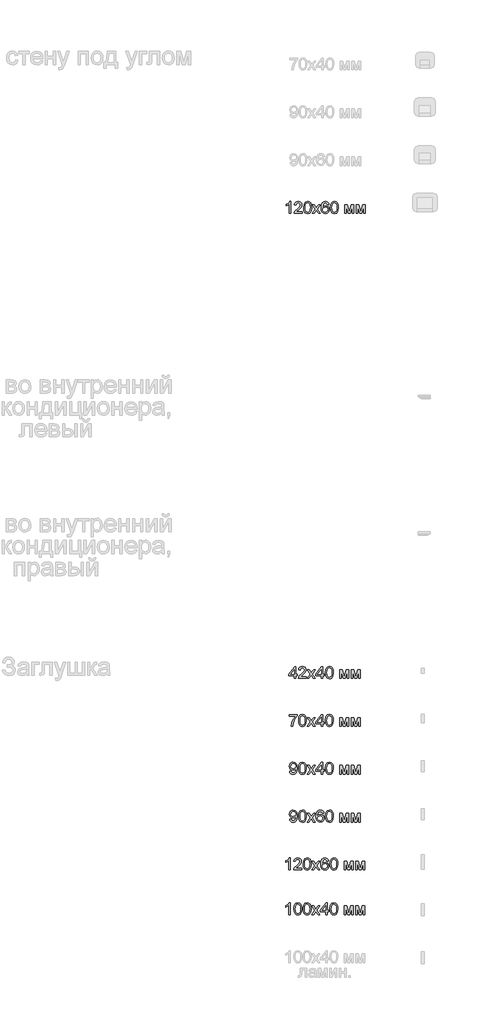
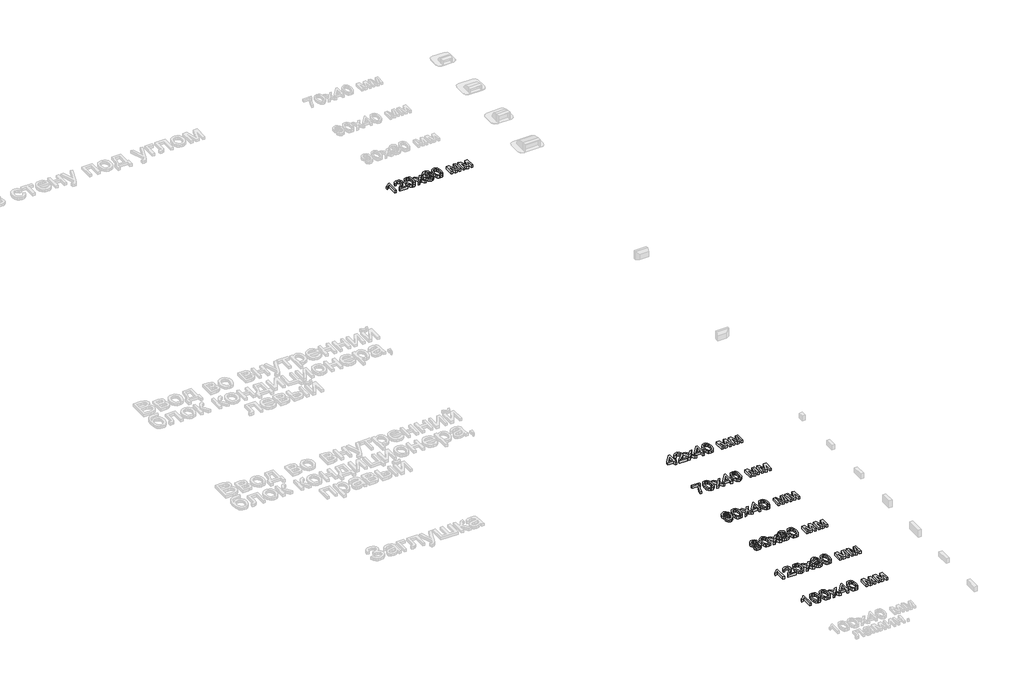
# One storey, part 20 of 21: 7 proxies.
"""IFC4 building model written with IfcOpenShell, lengths in millimetres."""

from ifc_helpers import new_model, si_unit, origin, origin_with_axes, place, context, project, spatial, polyline, outline, extrude, element, save

model = new_model("IFC4")

# Units and contexts
model_context = context("Model", 3, world=origin())
ifc_project = project(units=[si_unit("LENGTHUNIT", "METRE", prefix="MILLI")], contexts=[model_context])

# Site, building, storey
site = spatial("IfcSite", under=ifc_project)
building = spatial("IfcBuilding", under=site)
storey = spatial("IfcBuildingStorey", under=building, Name="Этаж 01", Elevation=0.0)

# Proxies
placement = place(None, origin())
element("IfcBuildingElementProxy", 1, Name="100 мм Arial", ObjectType="100 мм Arial", at=placement, inside=storey, context=model_context, shape_type="SweptSolid", body=[
    extrude(outline(polyline([(31836.2828579, -6183.0162301), (31823.7258191, -6183.0162301), (31823.7258191, -6104.7309415), (31811.830968, -6113.2044901), (31798.6117416, -6119.5443232), (31798.6117416, -6107.6739975), (31817.0181041, -6095.9262991), (31828.189454, -6082.5599199), (31836.2828579, -6082.5599199), (31836.2828579, -6183.0162301)])), origin_with_axes(), (0.0, 0.0, 1.0), 20.0),
    extrude(outline(polyline([(31930.4606487, -6170.4591913), (31930.4606487, -6183.0162301), (31864.5361951, -6183.0162301), (31865.8850958, -6174.3587405), (31873.5125158, -6161.0291495), (31889.2333398, -6146.4732852), (31910.913852, -6125.5530625), (31916.3339801, -6111.328292), (31911.2204203, -6099.8135855), (31897.8663039, -6095.1169587), (31883.9481018, -6099.7032209), (31878.6628638, -6112.382887), (31866.105825, -6110.8132572), (31869.1500485, -6098.66702), (31875.7320705, -6089.7949325), (31885.5085346, -6084.3686731), (31898.136084, -6082.5599199), (31910.855604, -6084.5710082), (31920.6136739, -6090.6042729), (31926.8216826, -6099.6173818), (31928.8910188, -6110.5680025), (31926.6592014, -6122.4751164), (31919.2402478, -6134.7869005), (31901.2508183, -6151.9915152), (31886.8053186, -6164.0703073), (31881.1399359, -6170.4591913), (31930.4606487, -6170.4591913)])), origin_with_axes(), (0.0, 0.0, 1.0), 20.0),
    extrude(outline(polyline([(31943.0176874, -6133.5974154), (31946.7087701, -6104.6941533), (31957.6716536, -6088.0290989), (31975.9799142, -6082.5599199), (31990.6461431, -6085.7972815), (32000.7751607, -6095.1292214), (32006.6612726, -6109.9916541), (32008.942141, -6133.5974154), (32005.2878465, -6162.3780502), (31994.3617512, -6179.0798927), (31986.1303916, -6183.2093681), (31975.9799142, -6184.5858599), (31962.9323661, -6182.194627), (31953.0240777, -6175.0209281), (31945.519285, -6158.0309113), (31943.0176874, -6133.5974154)]), holes=[polyline([(31955.5747262, -6133.5728899), (31957.0462542, -6153.3250874), (31961.4608381, -6164.7570204), (31968.0336631, -6170.210871), (31975.9799142, -6172.0288212), (31983.9261653, -6170.2047396), (31990.4989903, -6164.7324949), (31994.9135742, -6153.2944306), (31996.3851022, -6133.5728899), (31994.9626252, -6114.2652166), (31990.695194, -6102.7443787), (31984.1346318, -6097.0238137), (31975.8327614, -6095.1169587), (31967.9723495, -6096.7969532), (31961.6570419, -6101.8369365), (31957.0953051, -6114.0751442), (31955.5747262, -6133.5728899)])]), origin_with_axes(), (0.0, 0.0, 1.0), 20.0),
    extrude(outline(polyline([(32015.2206604, -6183.0162301), (32042.0515206, -6145.933725), (32016.7902902, -6109.2436273), (32031.8979775, -6109.2436273), (32044.0871343, -6126.9019631), (32049.7770424, -6135.2406217), (32054.7066612, -6128.422542), (32068.5880751, -6109.2436273), (32083.6957624, -6109.2436273), (32057.1592078, -6145.933725), (32082.7147438, -6183.0162301), (32067.6070565, -6183.0162301), (32052.2295891, -6160.7225812), (32049.4091605, -6156.6513538), (32030.3283476, -6183.0162301), (32015.2206604, -6183.0162301)])), origin_with_axes(), (0.0, 0.0, 1.0), 20.0),
    extrude(outline(polyline([(32154.9177167, -6109.2436273), (32142.3606779, -6110.8132572), (32137.6027374, -6100.340883), (32125.0211732, -6095.1169587), (32113.6904077, -6098.1581165), (32105.1187573, -6109.5747211), (32101.5503019, -6131.9542092), (32112.62355, -6121.9355562), (32126.3455484, -6118.6614064), (32137.946094, -6120.8993552), (32147.6827041, -6127.6132016), (32154.2861859, -6137.8709779), (32156.4873465, -6150.7407164), (32152.3425427, -6168.0679584), (32140.9382009, -6180.3306915), (32124.4816129, -6184.5858599), (32110.2353827, -6181.7654313), (32098.8892888, -6173.3041454), (32091.4672696, -6158.3681364), (32088.9932631, -6136.1235384), (32091.7401154, -6111.1136941), (32099.9806721, -6094.0133127), (32111.2317297, -6085.4232681), (32125.8059881, -6082.5599199), (32136.8240539, -6084.3318849), (32145.6470904, -6089.6477797), (32151.8275079, -6098.0906715), (32154.9177167, -6109.2436273)]), holes=[polyline([(32101.5503019, -6150.5445127), (32104.4565697, -6161.421557), (32112.1820916, -6169.3187571), (32123.5005943, -6172.0288212), (32131.7871362, -6170.6247382), (32138.3017132, -6166.4124894), (32142.5231591, -6159.7906135), (32143.9303077, -6151.1576493), (32142.5415532, -6142.8711074), (32138.3752896, -6136.5527341), (32131.750348, -6132.5520174), (32122.9855595, -6131.2184452), (32107.7920331, -6136.5527341), (32103.1107347, -6142.7178232), (32101.5503019, -6150.5445127)])]), origin_with_axes(), (0.0, 0.0, 1.0), 20.0),
    extrude(outline(polyline([(32167.4747554, -6133.5974154), (32171.1658381, -6104.6941533), (32182.1287216, -6088.0290989), (32200.4369822, -6082.5599199), (32215.1032111, -6085.7972815), (32225.2322287, -6095.1292214), (32231.1183406, -6109.9916541), (32233.399209, -6133.5974154), (32229.7449145, -6162.3780502), (32218.8188192, -6179.0798927), (32210.5874596, -6183.2093681), (32200.4369822, -6184.5858599), (32187.3894341, -6182.194627), (32177.4811457, -6175.0209281), (32169.976353, -6158.0309113), (32167.4747554, -6133.5974154)]), holes=[polyline([(32180.0317942, -6133.5728899), (32181.5033222, -6153.3250874), (32185.9179061, -6164.7570204), (32192.4907311, -6170.210871), (32200.4369822, -6172.0288212), (32208.3832333, -6170.2047396), (32214.9560583, -6164.7324949), (32219.3706422, -6153.2944306), (32220.8421702, -6133.5728899), (32219.4196932, -6114.2652166), (32215.152262, -6102.7443787), (32208.5916998, -6097.0238137), (32200.2898294, -6095.1169587), (32192.4294174, -6096.7969532), (32186.1141099, -6101.8369365), (32181.5523731, -6114.0751442), (32180.0317942, -6133.5728899)])]), origin_with_axes(), (0.0, 0.0, 1.0), 20.0),
    extrude(outline(polyline([(32286.7666237, -6109.2436273), (32308.3735596, -6109.2436273), (32325.0263512, -6168.3009503), (32342.9789926, -6109.2436273), (32363.6784862, -6109.2436273), (32363.6784862, -6183.0162301), (32351.1214474, -6183.0162301), (32351.1214474, -6123.6155506), (32333.0707042, -6183.0162301), (32316.5895908, -6183.0162301), (32299.3236625, -6120.7705965), (32299.3236625, -6183.0162301), (32286.7666237, -6183.0162301), (32286.7666237, -6109.2436273)])), origin_with_axes(), (0.0, 0.0, 1.0), 20.0),
    extrude(outline(polyline([(32382.5140444, -6109.2436273), (32404.1209802, -6109.2436273), (32420.7737719, -6168.3009503), (32438.7264132, -6109.2436273), (32459.4259068, -6109.2436273), (32459.4259068, -6183.0162301), (32446.868868, -6183.0162301), (32446.868868, -6123.6155506), (32428.8181248, -6183.0162301), (32412.3370114, -6183.0162301), (32395.0710831, -6120.7705965), (32395.0710831, -6183.0162301), (32382.5140444, -6183.0162301), (32382.5140444, -6109.2436273)])), origin_with_axes(), (0.0, 0.0, 1.0), 20.0),
])
element("IfcBuildingElementProxy", 2, Name="100 мм Arial", ObjectType="100 мм Arial", at=placement, inside=storey, context=model_context, shape_type="SweptSolid", body=[
    extrude(outline(polyline([(31864.2626016, -10069.3910791), (31864.2626016, -10045.8466314), (31818.7433361, -10045.8466314), (31818.7433361, -10033.2895926), (31867.4018613, -9970.5043988), (31876.8196404, -9970.5043988), (31876.8196404, -10033.2895926), (31889.3766791, -10033.2895926), (31889.3766791, -10045.8466314), (31876.8196404, -10045.8466314), (31876.8196404, -10069.3910791), (31864.2626016, -10069.3910791)]), holes=[polyline([(31864.2626016, -10033.2895926), (31864.2626016, -9994.4903049), (31834.1943799, -10033.2895926), (31864.2626016, -10033.2895926)])]), origin_with_axes(), (0.0, 0.0, 1.0), 20.0),
    extrude(outline(polyline([(31964.7189117, -10056.8340403), (31964.7189117, -10069.3910791), (31898.7944582, -10069.3910791), (31900.1433589, -10060.7335895), (31907.7707789, -10047.4039985), (31923.4916028, -10032.8481342), (31945.1721151, -10011.9279114), (31950.5922431, -9997.703141), (31945.4786834, -9986.1884345), (31932.124567, -9981.4918077), (31918.2063648, -9986.0780699), (31912.9211268, -9998.757736), (31900.3640881, -9997.1881062), (31903.4083116, -9985.041869), (31909.9903336, -9976.1697815), (31919.7667976, -9970.7435221), (31932.3943471, -9968.9347689), (31945.1138671, -9970.9458572), (31954.871937, -9976.9791219), (31961.0799457, -9985.9922308), (31963.1492819, -9996.9428515), (31960.9174645, -10008.8499654), (31953.4985109, -10021.1617495), (31935.5090813, -10038.3663642), (31921.0635816, -10050.4451563), (31915.3981989, -10056.8340403), (31964.7189117, -10056.8340403)])), origin_with_axes(), (0.0, 0.0, 1.0), 20.0),
    extrude(outline(polyline([(31972.567061, -10069.3910791), (31999.3979212, -10032.308574), (31974.1366908, -9995.6184763), (31989.2443781, -9995.6184763), (32001.4335349, -10013.2768121), (32007.1234431, -10021.6154706), (32012.0530618, -10014.797391), (32025.9344757, -9995.6184763), (32041.042163, -9995.6184763), (32014.5056084, -10032.308574), (32040.0611444, -10069.3910791), (32024.9534571, -10069.3910791), (32009.5759897, -10047.0974302), (32006.7555611, -10043.0262028), (31987.6747482, -10069.3910791), (31972.567061, -10069.3910791)])), origin_with_axes(), (0.0, 0.0, 1.0), 20.0),
    extrude(outline(polyline([(32088.7196696, -10069.3910791), (32088.7196696, -10045.8466314), (32043.200404, -10045.8466314), (32043.200404, -10033.2895926), (32091.8589293, -9970.5043988), (32101.2767084, -9970.5043988), (32101.2767084, -10033.2895926), (32113.8337471, -10033.2895926), (32113.8337471, -10045.8466314), (32101.2767084, -10045.8466314), (32101.2767084, -10069.3910791), (32088.7196696, -10069.3910791)]), holes=[polyline([(32088.7196696, -10033.2895926), (32088.7196696, -9994.4903049), (32058.6514478, -10033.2895926), (32088.7196696, -10033.2895926)])]), origin_with_axes(), (0.0, 0.0, 1.0), 20.0),
    extrude(outline(polyline([(32124.821156, -10019.9722644), (32128.5122387, -9991.0690023), (32139.4751222, -9974.4039479), (32157.7833828, -9968.9347689), (32172.4496117, -9972.1721305), (32182.5786293, -9981.5040704), (32188.4647412, -9996.366503), (32190.7456096, -10019.9722644), (32187.0913151, -10048.7528992), (32176.1652198, -10065.4547417), (32167.9338602, -10069.5842171), (32157.7833828, -10070.9607089), (32144.7358347, -10068.569476), (32134.8275463, -10061.3957771), (32127.3227536, -10044.4057602), (32124.821156, -10019.9722644)]), holes=[polyline([(32137.3781948, -10019.9477389), (32138.8497228, -10039.6999364), (32143.2643067, -10051.1318694), (32149.8371317, -10056.58572), (32157.7833828, -10058.4036702), (32165.7296339, -10056.5795886), (32172.3024589, -10051.1073439), (32176.7170428, -10039.6692796), (32178.1885708, -10019.9477389), (32176.7660938, -10000.6400656), (32172.4986626, -9989.1192277), (32165.9381004, -9983.3986627), (32157.63623, -9981.4918077), (32149.775818, -9983.1718022), (32143.4605105, -9988.2117855), (32138.8987737, -10000.4499932), (32137.3781948, -10019.9477389)])]), origin_with_axes(), (0.0, 0.0, 1.0), 20.0),
    extrude(outline(polyline([(32244.1130243, -9995.6184763), (32265.7199602, -9995.6184763), (32282.3727518, -10054.6757993), (32300.3253932, -9995.6184763), (32321.0248868, -9995.6184763), (32321.0248868, -10069.3910791), (32308.467848, -10069.3910791), (32308.467848, -10009.9903996), (32290.4171048, -10069.3910791), (32273.9359914, -10069.3910791), (32256.6700631, -10007.1454455), (32256.6700631, -10069.3910791), (32244.1130243, -10069.3910791), (32244.1130243, -9995.6184763)])), origin_with_axes(), (0.0, 0.0, 1.0), 20.0),
    extrude(outline(polyline([(32339.860445, -9995.6184763), (32361.4673808, -9995.6184763), (32378.1201725, -10054.6757993), (32396.0728138, -9995.6184763), (32416.7723074, -9995.6184763), (32416.7723074, -10069.3910791), (32404.2152686, -10069.3910791), (32404.2152686, -10009.9903996), (32386.1645254, -10069.3910791), (32369.683412, -10069.3910791), (32352.4174837, -10007.1454455), (32352.4174837, -10069.3910791), (32339.860445, -10069.3910791), (32339.860445, -9995.6184763)])), origin_with_axes(), (0.0, 0.0, 1.0), 20.0),
])
element("IfcBuildingElementProxy", 3, Name="100 мм Arial", ObjectType="100 мм Arial", at=placement, inside=storey, context=model_context, shape_type="SweptSolid", body=[
    extrude(outline(polyline([(31823.4522256, -10383.0614376), (31823.4522256, -10370.5043988), (31889.3766791, -10370.5043988), (31889.3766791, -10380.6579419), (31870.676011, -10407.672743), (31856.3654014, -10442.094235), (31851.7055628, -10469.3910791), (31839.1485241, -10469.3910791), (31844.1394565, -10441.0641655), (31857.8369294, -10409.0461691), (31876.8196404, -10383.0614376), (31823.4522256, -10383.0614376)])), origin_with_axes(), (0.0, 0.0, 1.0), 20.0),
    extrude(outline(polyline([(31900.3640881, -10419.9722644), (31904.0551707, -10391.0690023), (31915.0180542, -10374.4039479), (31933.3263148, -10368.9347689), (31947.9925437, -10372.1721305), (31958.1215613, -10381.5040704), (31964.0076732, -10396.366503), (31966.2885416, -10419.9722644), (31962.6342471, -10448.7528992), (31951.7081518, -10465.4547417), (31943.4767922, -10469.5842171), (31933.3263148, -10470.9607089), (31920.2787667, -10468.569476), (31910.3704783, -10461.3957771), (31902.8656856, -10444.4057602), (31900.3640881, -10419.9722644)]), holes=[polyline([(31912.9211268, -10419.9477389), (31914.3926548, -10439.6999364), (31918.8072387, -10451.1318694), (31925.3800637, -10456.58572), (31933.3263148, -10458.4036702), (31941.2725659, -10456.5795886), (31947.8453909, -10451.1073439), (31952.2599748, -10439.6692796), (31953.7315028, -10419.9477389), (31952.3090258, -10400.6400656), (31948.0415946, -10389.1192277), (31941.4810324, -10383.3986627), (31933.179162, -10381.4918077), (31925.3187501, -10383.1718022), (31919.0034425, -10388.2117855), (31914.4417057, -10400.4499932), (31912.9211268, -10419.9477389)])]), origin_with_axes(), (0.0, 0.0, 1.0), 20.0),
    extrude(outline(polyline([(31972.567061, -10469.3910791), (31999.3979212, -10432.308574), (31974.1366908, -10395.6184763), (31989.2443781, -10395.6184763), (32001.4335349, -10413.2768121), (32007.1234431, -10421.6154706), (32012.0530618, -10414.797391), (32025.9344757, -10395.6184763), (32041.042163, -10395.6184763), (32014.5056084, -10432.308574), (32040.0611444, -10469.3910791), (32024.9534571, -10469.3910791), (32009.5759897, -10447.0974302), (32006.7555611, -10443.0262028), (31987.6747482, -10469.3910791), (31972.567061, -10469.3910791)])), origin_with_axes(), (0.0, 0.0, 1.0), 20.0),
    extrude(outline(polyline([(32088.7196696, -10469.3910791), (32088.7196696, -10445.8466314), (32043.200404, -10445.8466314), (32043.200404, -10433.2895926), (32091.8589293, -10370.5043988), (32101.2767084, -10370.5043988), (32101.2767084, -10433.2895926), (32113.8337471, -10433.2895926), (32113.8337471, -10445.8466314), (32101.2767084, -10445.8466314), (32101.2767084, -10469.3910791), (32088.7196696, -10469.3910791)]), holes=[polyline([(32088.7196696, -10433.2895926), (32088.7196696, -10394.4903049), (32058.6514478, -10433.2895926), (32088.7196696, -10433.2895926)])]), origin_with_axes(), (0.0, 0.0, 1.0), 20.0),
    extrude(outline(polyline([(32124.821156, -10419.9722644), (32128.5122387, -10391.0690023), (32139.4751222, -10374.4039479), (32157.7833828, -10368.9347689), (32172.4496117, -10372.1721305), (32182.5786293, -10381.5040704), (32188.4647412, -10396.366503), (32190.7456096, -10419.9722644), (32187.0913151, -10448.7528992), (32176.1652198, -10465.4547417), (32167.9338602, -10469.5842171), (32157.7833828, -10470.9607089), (32144.7358347, -10468.569476), (32134.8275463, -10461.3957771), (32127.3227536, -10444.4057602), (32124.821156, -10419.9722644)]), holes=[polyline([(32137.3781948, -10419.9477389), (32138.8497228, -10439.6999364), (32143.2643067, -10451.1318694), (32149.8371317, -10456.58572), (32157.7833828, -10458.4036702), (32165.7296339, -10456.5795886), (32172.3024589, -10451.1073439), (32176.7170428, -10439.6692796), (32178.1885708, -10419.9477389), (32176.7660938, -10400.6400656), (32172.4986626, -10389.1192277), (32165.9381004, -10383.3986627), (32157.63623, -10381.4918077), (32149.775818, -10383.1718022), (32143.4605105, -10388.2117855), (32138.8987737, -10400.4499932), (32137.3781948, -10419.9477389)])]), origin_with_axes(), (0.0, 0.0, 1.0), 20.0),
    extrude(outline(polyline([(32244.1130243, -10395.6184763), (32265.7199602, -10395.6184763), (32282.3727518, -10454.6757993), (32300.3253932, -10395.6184763), (32321.0248868, -10395.6184763), (32321.0248868, -10469.3910791), (32308.467848, -10469.3910791), (32308.467848, -10409.9903996), (32290.4171048, -10469.3910791), (32273.9359914, -10469.3910791), (32256.6700631, -10407.1454455), (32256.6700631, -10469.3910791), (32244.1130243, -10469.3910791), (32244.1130243, -10395.6184763)])), origin_with_axes(), (0.0, 0.0, 1.0), 20.0),
    extrude(outline(polyline([(32339.860445, -10395.6184763), (32361.4673808, -10395.6184763), (32378.1201725, -10454.6757993), (32396.0728138, -10395.6184763), (32416.7723074, -10395.6184763), (32416.7723074, -10469.3910791), (32404.2152686, -10469.3910791), (32404.2152686, -10409.9903996), (32386.1645254, -10469.3910791), (32369.683412, -10469.3910791), (32352.4174837, -10407.1454455), (32352.4174837, -10469.3910791), (32339.860445, -10469.3910791), (32339.860445, -10395.6184763)])), origin_with_axes(), (0.0, 0.0, 1.0), 20.0),
])
element("IfcBuildingElementProxy", 4, Name="100 мм Arial", ObjectType="100 мм Arial", at=placement, inside=storey, context=model_context, shape_type="SweptSolid", body=[
    extrude(outline(polyline([(31825.0218554, -10844.2770016), (31837.5788942, -10842.7073717), (31843.2197515, -10854.688062), (31853.9128548, -10858.4036702), (31864.0786606, -10856.0124372), (31870.9703166, -10849.6235532), (31875.0783323, -10838.7097207), (31876.8932168, -10824.1415937), (31876.8196404, -10821.689047), (31866.7764619, -10831.204928), (31853.0054125, -10834.8592225), (31841.5550854, -10832.627405), (31832.0238761, -10825.9319527), (31825.5951382, -10815.5883373), (31823.4522256, -10802.4120305), (31825.6993714, -10788.8003967), (31832.440809, -10778.1318188), (31842.5667609, -10771.2340314), (31854.9674498, -10768.9347689), (31872.8587775, -10774.1832187), (31885.1705617, -10789.1437532), (31889.3766791, -10817.2499376), (31885.1828244, -10847.747355), (31879.9680971, -10857.7384169), (31872.7116247, -10865.0255461), (31863.726107, -10869.4769182), (31853.3242436, -10870.9607089), (31842.5882207, -10869.2102038), (31834.0227016, -10863.9586883), (31828.0323564, -10855.5372563), (31825.0218554, -10844.2770016)]), holes=[polyline([(31876.8196404, -10802.1177249), (31875.4646083, -10793.6073881), (31871.3995123, -10787.0590886), (31865.0903361, -10782.8836279), (31857.0030636, -10781.4918077), (31848.6153541, -10782.9909268), (31841.8953763, -10787.4882842), (31837.4807923, -10794.3707432), (31836.0092644, -10803.0251672), (31837.4010846, -10810.7844116), (31841.5765452, -10816.9433693), (31848.1309761, -10820.9624801), (31856.659707, -10822.3021837), (31871.1419949, -10816.9433693), (31875.400229, -10810.557551), (31876.8196404, -10802.1177249)])]), origin_with_axes(), (0.0, 0.0, 1.0), 20.0),
    extrude(outline(polyline([(31900.3640881, -10819.9722644), (31904.0551707, -10791.0690023), (31915.0180542, -10774.4039479), (31933.3263148, -10768.9347689), (31947.9925437, -10772.1721305), (31958.1215613, -10781.5040704), (31964.0076732, -10796.366503), (31966.2885416, -10819.9722644), (31962.6342471, -10848.7528992), (31951.7081518, -10865.4547417), (31943.4767922, -10869.5842171), (31933.3263148, -10870.9607089), (31920.2787667, -10868.569476), (31910.3704783, -10861.3957771), (31902.8656856, -10844.4057602), (31900.3640881, -10819.9722644)]), holes=[polyline([(31912.9211268, -10819.9477389), (31914.3926548, -10839.6999364), (31918.8072387, -10851.1318694), (31925.3800637, -10856.58572), (31933.3263148, -10858.4036702), (31941.2725659, -10856.5795886), (31947.8453909, -10851.1073439), (31952.2599748, -10839.6692796), (31953.7315028, -10819.9477389), (31952.3090258, -10800.6400656), (31948.0415946, -10789.1192277), (31941.4810324, -10783.3986627), (31933.179162, -10781.4918077), (31925.3187501, -10783.1718022), (31919.0034425, -10788.2117855), (31914.4417057, -10800.4499932), (31912.9211268, -10819.9477389)])]), origin_with_axes(), (0.0, 0.0, 1.0), 20.0),
    extrude(outline(polyline([(31972.567061, -10869.3910791), (31999.3979212, -10832.308574), (31974.1366908, -10795.6184763), (31989.2443781, -10795.6184763), (32001.4335349, -10813.2768121), (32007.1234431, -10821.6154706), (32012.0530618, -10814.797391), (32025.9344757, -10795.6184763), (32041.042163, -10795.6184763), (32014.5056084, -10832.308574), (32040.0611444, -10869.3910791), (32024.9534571, -10869.3910791), (32009.5759897, -10847.0974302), (32006.7555611, -10843.0262028), (31987.6747482, -10869.3910791), (31972.567061, -10869.3910791)])), origin_with_axes(), (0.0, 0.0, 1.0), 20.0),
    extrude(outline(polyline([(32088.7196696, -10869.3910791), (32088.7196696, -10845.8466314), (32043.200404, -10845.8466314), (32043.200404, -10833.2895926), (32091.8589293, -10770.5043988), (32101.2767084, -10770.5043988), (32101.2767084, -10833.2895926), (32113.8337471, -10833.2895926), (32113.8337471, -10845.8466314), (32101.2767084, -10845.8466314), (32101.2767084, -10869.3910791), (32088.7196696, -10869.3910791)]), holes=[polyline([(32088.7196696, -10833.2895926), (32088.7196696, -10794.4903049), (32058.6514478, -10833.2895926), (32088.7196696, -10833.2895926)])]), origin_with_axes(), (0.0, 0.0, 1.0), 20.0),
    extrude(outline(polyline([(32124.821156, -10819.9722644), (32128.5122387, -10791.0690023), (32139.4751222, -10774.4039479), (32157.7833828, -10768.9347689), (32172.4496117, -10772.1721305), (32182.5786293, -10781.5040704), (32188.4647412, -10796.366503), (32190.7456096, -10819.9722644), (32187.0913151, -10848.7528992), (32176.1652198, -10865.4547417), (32167.9338602, -10869.5842171), (32157.7833828, -10870.9607089), (32144.7358347, -10868.569476), (32134.8275463, -10861.3957771), (32127.3227536, -10844.4057602), (32124.821156, -10819.9722644)]), holes=[polyline([(32137.3781948, -10819.9477389), (32138.8497228, -10839.6999364), (32143.2643067, -10851.1318694), (32149.8371317, -10856.58572), (32157.7833828, -10858.4036702), (32165.7296339, -10856.5795886), (32172.3024589, -10851.1073439), (32176.7170428, -10839.6692796), (32178.1885708, -10819.9477389), (32176.7660938, -10800.6400656), (32172.4986626, -10789.1192277), (32165.9381004, -10783.3986627), (32157.63623, -10781.4918077), (32149.775818, -10783.1718022), (32143.4605105, -10788.2117855), (32138.8987737, -10800.4499932), (32137.3781948, -10819.9477389)])]), origin_with_axes(), (0.0, 0.0, 1.0), 20.0),
    extrude(outline(polyline([(32244.1130243, -10795.6184763), (32265.7199602, -10795.6184763), (32282.3727518, -10854.6757993), (32300.3253932, -10795.6184763), (32321.0248868, -10795.6184763), (32321.0248868, -10869.3910791), (32308.467848, -10869.3910791), (32308.467848, -10809.9903996), (32290.4171048, -10869.3910791), (32273.9359914, -10869.3910791), (32256.6700631, -10807.1454455), (32256.6700631, -10869.3910791), (32244.1130243, -10869.3910791), (32244.1130243, -10795.6184763)])), origin_with_axes(), (0.0, 0.0, 1.0), 20.0),
    extrude(outline(polyline([(32339.860445, -10795.6184763), (32361.4673808, -10795.6184763), (32378.1201725, -10854.6757993), (32396.0728138, -10795.6184763), (32416.7723074, -10795.6184763), (32416.7723074, -10869.3910791), (32404.2152686, -10869.3910791), (32404.2152686, -10809.9903996), (32386.1645254, -10869.3910791), (32369.683412, -10869.3910791), (32352.4174837, -10807.1454455), (32352.4174837, -10869.3910791), (32339.860445, -10869.3910791), (32339.860445, -10795.6184763)])), origin_with_axes(), (0.0, 0.0, 1.0), 20.0),
])
element("IfcBuildingElementProxy", 5, Name="100 мм Arial", ObjectType="100 мм Arial", at=placement, inside=storey, context=model_context, shape_type="SweptSolid", body=[
    extrude(outline(polyline([(31825.0218554, -11244.2770016), (31837.5788942, -11242.7073717), (31843.2197515, -11254.688062), (31853.9128548, -11258.4036702), (31864.0786606, -11256.0124372), (31870.9703166, -11249.6235532), (31875.0783323, -11238.7097207), (31876.8932168, -11224.1415937), (31876.8196404, -11221.689047), (31866.7764619, -11231.204928), (31853.0054125, -11234.8592225), (31841.5550854, -11232.627405), (31832.0238761, -11225.9319527), (31825.5951382, -11215.5883373), (31823.4522256, -11202.4120305), (31825.6993714, -11188.8003967), (31832.440809, -11178.1318188), (31842.5667609, -11171.2340314), (31854.9674498, -11168.9347689), (31872.8587775, -11174.1832187), (31885.1705617, -11189.1437532), (31889.3766791, -11217.2499376), (31885.1828244, -11247.747355), (31879.9680971, -11257.7384169), (31872.7116247, -11265.0255461), (31863.726107, -11269.4769182), (31853.3242436, -11270.9607089), (31842.5882207, -11269.2102038), (31834.0227016, -11263.9586883), (31828.0323564, -11255.5372563), (31825.0218554, -11244.2770016)]), holes=[polyline([(31876.8196404, -11202.1177249), (31875.4646083, -11193.6073881), (31871.3995123, -11187.0590886), (31865.0903361, -11182.8836279), (31857.0030636, -11181.4918077), (31848.6153541, -11182.9909268), (31841.8953763, -11187.4882842), (31837.4807923, -11194.3707432), (31836.0092644, -11203.0251672), (31837.4010846, -11210.7844116), (31841.5765452, -11216.9433693), (31848.1309761, -11220.9624801), (31856.659707, -11222.3021837), (31871.1419949, -11216.9433693), (31875.400229, -11210.557551), (31876.8196404, -11202.1177249)])]), origin_with_axes(), (0.0, 0.0, 1.0), 20.0),
    extrude(outline(polyline([(31900.3640881, -11219.9722644), (31904.0551707, -11191.0690023), (31915.0180542, -11174.4039479), (31933.3263148, -11168.9347689), (31947.9925437, -11172.1721305), (31958.1215613, -11181.5040704), (31964.0076732, -11196.366503), (31966.2885416, -11219.9722644), (31962.6342471, -11248.7528992), (31951.7081518, -11265.4547417), (31943.4767922, -11269.5842171), (31933.3263148, -11270.9607089), (31920.2787667, -11268.569476), (31910.3704783, -11261.3957771), (31902.8656856, -11244.4057602), (31900.3640881, -11219.9722644)]), holes=[polyline([(31912.9211268, -11219.9477389), (31914.3926548, -11239.6999364), (31918.8072387, -11251.1318694), (31925.3800637, -11256.58572), (31933.3263148, -11258.4036702), (31941.2725659, -11256.5795886), (31947.8453909, -11251.1073439), (31952.2599748, -11239.6692796), (31953.7315028, -11219.9477389), (31952.3090258, -11200.6400656), (31948.0415946, -11189.1192277), (31941.4810324, -11183.3986627), (31933.179162, -11181.4918077), (31925.3187501, -11183.1718022), (31919.0034425, -11188.2117855), (31914.4417057, -11200.4499932), (31912.9211268, -11219.9477389)])]), origin_with_axes(), (0.0, 0.0, 1.0), 20.0),
    extrude(outline(polyline([(31972.567061, -11269.3910791), (31999.3979212, -11232.308574), (31974.1366908, -11195.6184763), (31989.2443781, -11195.6184763), (32001.4335349, -11213.2768121), (32007.1234431, -11221.6154706), (32012.0530618, -11214.797391), (32025.9344757, -11195.6184763), (32041.042163, -11195.6184763), (32014.5056084, -11232.308574), (32040.0611444, -11269.3910791), (32024.9534571, -11269.3910791), (32009.5759897, -11247.0974302), (32006.7555611, -11243.0262028), (31987.6747482, -11269.3910791), (31972.567061, -11269.3910791)])), origin_with_axes(), (0.0, 0.0, 1.0), 20.0),
    extrude(outline(polyline([(32112.2641173, -11195.6184763), (32099.7070785, -11197.1881062), (32094.949138, -11186.715732), (32082.3675738, -11181.4918077), (32071.0368083, -11184.5329655), (32062.4651579, -11195.9495701), (32058.8967025, -11218.3290582), (32069.9699506, -11208.3104052), (32083.691949, -11205.0362554), (32095.2924946, -11207.2742042), (32105.0291047, -11213.9880506), (32111.6325865, -11224.2458269), (32113.8337471, -11237.1155654), (32109.6889433, -11254.4428074), (32098.2846015, -11266.7055405), (32081.8280135, -11270.9607089), (32067.5817833, -11268.1402803), (32056.2356894, -11259.6789944), (32048.8136702, -11244.7429854), (32046.3396637, -11222.4983874), (32049.086516, -11197.4885431), (32057.3270727, -11180.3881617), (32068.5781303, -11171.7981171), (32083.1523887, -11168.9347689), (32094.1704545, -11170.7067339), (32102.993491, -11176.0226287), (32109.1739085, -11184.4655205), (32112.2641173, -11195.6184763)]), holes=[polyline([(32058.8967025, -11236.9193616), (32061.8029703, -11247.796406), (32069.5284922, -11255.6936061), (32080.8469949, -11258.4036702), (32089.1335368, -11256.9995872), (32095.6481138, -11252.7873384), (32099.8695597, -11246.1654625), (32101.2767084, -11237.5324983), (32099.8879538, -11229.2459564), (32095.7216902, -11222.9275831), (32089.0967486, -11218.9268664), (32080.3319601, -11217.5932942), (32065.1384337, -11222.9275831), (32060.4571353, -11229.0926722), (32058.8967025, -11236.9193616)])]), origin_with_axes(), (0.0, 0.0, 1.0), 20.0),
    extrude(outline(polyline([(32124.821156, -11219.9722644), (32128.5122387, -11191.0690023), (32139.4751222, -11174.4039479), (32157.7833828, -11168.9347689), (32172.4496117, -11172.1721305), (32182.5786293, -11181.5040704), (32188.4647412, -11196.366503), (32190.7456096, -11219.9722644), (32187.0913151, -11248.7528992), (32176.1652198, -11265.4547417), (32167.9338602, -11269.5842171), (32157.7833828, -11270.9607089), (32144.7358347, -11268.569476), (32134.8275463, -11261.3957771), (32127.3227536, -11244.4057602), (32124.821156, -11219.9722644)]), holes=[polyline([(32137.3781948, -11219.9477389), (32138.8497228, -11239.6999364), (32143.2643067, -11251.1318694), (32149.8371317, -11256.58572), (32157.7833828, -11258.4036702), (32165.7296339, -11256.5795886), (32172.3024589, -11251.1073439), (32176.7170428, -11239.6692796), (32178.1885708, -11219.9477389), (32176.7660938, -11200.6400656), (32172.4986626, -11189.1192277), (32165.9381004, -11183.3986627), (32157.63623, -11181.4918077), (32149.775818, -11183.1718022), (32143.4605105, -11188.2117855), (32138.8987737, -11200.4499932), (32137.3781948, -11219.9477389)])]), origin_with_axes(), (0.0, 0.0, 1.0), 20.0),
    extrude(outline(polyline([(32244.1130243, -11195.6184763), (32265.7199602, -11195.6184763), (32282.3727518, -11254.6757993), (32300.3253932, -11195.6184763), (32321.0248868, -11195.6184763), (32321.0248868, -11269.3910791), (32308.467848, -11269.3910791), (32308.467848, -11209.9903996), (32290.4171048, -11269.3910791), (32273.9359914, -11269.3910791), (32256.6700631, -11207.1454455), (32256.6700631, -11269.3910791), (32244.1130243, -11269.3910791), (32244.1130243, -11195.6184763)])), origin_with_axes(), (0.0, 0.0, 1.0), 20.0),
    extrude(outline(polyline([(32339.860445, -11195.6184763), (32361.4673808, -11195.6184763), (32378.1201725, -11254.6757993), (32396.0728138, -11195.6184763), (32416.7723074, -11195.6184763), (32416.7723074, -11269.3910791), (32404.2152686, -11269.3910791), (32404.2152686, -11209.9903996), (32386.1645254, -11269.3910791), (32369.683412, -11269.3910791), (32352.4174837, -11207.1454455), (32352.4174837, -11269.3910791), (32339.860445, -11269.3910791), (32339.860445, -11195.6184763)])), origin_with_axes(), (0.0, 0.0, 1.0), 20.0),
])
element("IfcBuildingElementProxy", 6, Name="100 мм Arial", ObjectType="100 мм Arial", at=placement, inside=storey, context=model_context, shape_type="SweptSolid", body=[
    extrude(outline(polyline([(31832.0851897, -11669.3910791), (31819.528151, -11669.3910791), (31819.528151, -11591.1057905), (31807.6332998, -11599.5793391), (31794.4140734, -11605.9191722), (31794.4140734, -11594.0488465), (31812.8204359, -11582.3011481), (31823.9917859, -11568.9347689), (31832.0851897, -11568.9347689), (31832.0851897, -11669.3910791)])), origin_with_axes(), (0.0, 0.0, 1.0), 20.0),
    extrude(outline(polyline([(31926.2629805, -11656.8340403), (31926.2629805, -11669.3910791), (31860.338527, -11669.3910791), (31861.6874276, -11660.7335895), (31869.3148477, -11647.4039985), (31885.0356716, -11632.8481342), (31906.7161838, -11611.9279114), (31912.1363119, -11597.703141), (31907.0227522, -11586.1884345), (31893.6686357, -11581.4918077), (31879.7504336, -11586.0780699), (31874.4651956, -11598.757736), (31861.9081568, -11597.1881062), (31864.9523803, -11585.041869), (31871.5344024, -11576.1697815), (31881.3108664, -11570.7435221), (31893.9384159, -11568.9347689), (31906.6579359, -11570.9458572), (31916.4160058, -11576.9791219), (31922.6240144, -11585.9922308), (31924.6933507, -11596.9428515), (31922.4615332, -11608.8499654), (31915.0425797, -11621.1617495), (31897.0531501, -11638.3663642), (31882.6076504, -11650.4451563), (31876.9422677, -11656.8340403), (31926.2629805, -11656.8340403)])), origin_with_axes(), (0.0, 0.0, 1.0), 20.0),
    extrude(outline(polyline([(31938.8200193, -11619.9722644), (31942.511102, -11591.0690023), (31953.4739854, -11574.4039479), (31971.7822461, -11568.9347689), (31986.4484749, -11572.1721305), (31996.5774925, -11581.5040704), (32002.4636044, -11596.366503), (32004.7444728, -11619.9722644), (32001.0901783, -11648.7528992), (31990.1640831, -11665.4547417), (31981.9327234, -11669.5842171), (31971.7822461, -11670.9607089), (31958.734698, -11668.569476), (31948.8264096, -11661.3957771), (31941.3216168, -11644.4057602), (31938.8200193, -11619.9722644)]), holes=[polyline([(31951.3770581, -11619.9477389), (31952.848586, -11639.6999364), (31957.26317, -11651.1318694), (31963.835995, -11656.58572), (31971.7822461, -11658.4036702), (31979.7284971, -11656.5795886), (31986.3013221, -11651.1073439), (31990.7159061, -11639.6692796), (31992.187434, -11619.9477389), (31990.764957, -11600.6400656), (31986.4975259, -11589.1192277), (31979.9369636, -11583.3986627), (31971.6350933, -11581.4918077), (31963.7746813, -11583.1718022), (31957.4593737, -11588.2117855), (31952.897637, -11600.4499932), (31951.3770581, -11619.9477389)])]), origin_with_axes(), (0.0, 0.0, 1.0), 20.0),
    extrude(outline(polyline([(32011.0229922, -11669.3910791), (32037.8538524, -11632.308574), (32012.592622, -11595.6184763), (32027.7003093, -11595.6184763), (32039.8894661, -11613.2768121), (32045.5793743, -11621.6154706), (32050.508993, -11614.797391), (32064.390407, -11595.6184763), (32079.4980942, -11595.6184763), (32052.9615397, -11632.308574), (32078.5170756, -11669.3910791), (32063.4093883, -11669.3910791), (32048.0319209, -11647.0974302), (32045.2114923, -11643.0262028), (32026.1306795, -11669.3910791), (32011.0229922, -11669.3910791)])), origin_with_axes(), (0.0, 0.0, 1.0), 20.0),
    extrude(outline(polyline([(32150.7200485, -11595.6184763), (32138.1630097, -11597.1881062), (32133.4050693, -11586.715732), (32120.823505, -11581.4918077), (32109.4927396, -11584.5329655), (32100.9210891, -11595.9495701), (32097.3526337, -11618.3290582), (32108.4258818, -11608.3104052), (32122.1478802, -11605.0362554), (32133.7484258, -11607.2742042), (32143.4850359, -11613.9880506), (32150.0885177, -11624.2458269), (32152.2896784, -11637.1155654), (32148.1448745, -11654.4428074), (32136.7405327, -11666.7055405), (32120.2839448, -11670.9607089), (32106.0377145, -11668.1402803), (32094.6916206, -11659.6789944), (32087.2696014, -11644.7429854), (32084.795595, -11622.4983874), (32087.5424472, -11597.4885431), (32095.7830039, -11580.3881617), (32107.0340616, -11571.7981171), (32121.60832, -11568.9347689), (32132.6263857, -11570.7067339), (32141.4494222, -11576.0226287), (32147.6298397, -11584.4655205), (32150.7200485, -11595.6184763)]), holes=[polyline([(32097.3526337, -11636.9193616), (32100.2589015, -11647.796406), (32107.9844234, -11655.6936061), (32119.3029261, -11658.4036702), (32127.5894681, -11656.9995872), (32134.1040451, -11652.7873384), (32138.3254909, -11646.1654625), (32139.7326396, -11637.5324983), (32138.343885, -11629.2459564), (32134.1776215, -11622.9275831), (32127.5526799, -11618.9268664), (32118.7878913, -11617.5932942), (32103.5943649, -11622.9275831), (32098.9130665, -11629.0926722), (32097.3526337, -11636.9193616)])]), origin_with_axes(), (0.0, 0.0, 1.0), 20.0),
    extrude(outline(polyline([(32163.2770873, -11619.9722644), (32166.96817, -11591.0690023), (32177.9310534, -11574.4039479), (32196.239314, -11568.9347689), (32210.9055429, -11572.1721305), (32221.0345605, -11581.5040704), (32226.9206724, -11596.366503), (32229.2015408, -11619.9722644), (32225.5472463, -11648.7528992), (32214.6211511, -11665.4547417), (32206.3897914, -11669.5842171), (32196.239314, -11670.9607089), (32183.1917659, -11668.569476), (32173.2834775, -11661.3957771), (32165.7786848, -11644.4057602), (32163.2770873, -11619.9722644)]), holes=[polyline([(32175.834126, -11619.9477389), (32177.305654, -11639.6999364), (32181.720238, -11651.1318694), (32188.2930629, -11656.58572), (32196.239314, -11658.4036702), (32204.1855651, -11656.5795886), (32210.7583901, -11651.1073439), (32215.1729741, -11639.6692796), (32216.644502, -11619.9477389), (32215.222025, -11600.6400656), (32210.9545938, -11589.1192277), (32204.3940316, -11583.3986627), (32196.0921612, -11581.4918077), (32188.2317493, -11583.1718022), (32181.9164417, -11588.2117855), (32177.354705, -11600.4499932), (32175.834126, -11619.9477389)])]), origin_with_axes(), (0.0, 0.0, 1.0), 20.0),
    extrude(outline(polyline([(32282.5689556, -11595.6184763), (32304.1758914, -11595.6184763), (32320.8286831, -11654.6757993), (32338.7813244, -11595.6184763), (32359.480818, -11595.6184763), (32359.480818, -11669.3910791), (32346.9237793, -11669.3910791), (32346.9237793, -11609.9903996), (32328.873036, -11669.3910791), (32312.3919227, -11669.3910791), (32295.1259943, -11607.1454455), (32295.1259943, -11669.3910791), (32282.5689556, -11669.3910791), (32282.5689556, -11595.6184763)])), origin_with_axes(), (0.0, 0.0, 1.0), 20.0),
    extrude(outline(polyline([(32378.3163762, -11595.6184763), (32399.923312, -11595.6184763), (32416.5761037, -11654.6757993), (32434.528745, -11595.6184763), (32455.2282386, -11595.6184763), (32455.2282386, -11669.3910791), (32442.6711999, -11669.3910791), (32442.6711999, -11609.9903996), (32424.6204566, -11669.3910791), (32408.1393433, -11669.3910791), (32390.873415, -11607.1454455), (32390.873415, -11669.3910791), (32378.3163762, -11669.3910791), (32378.3163762, -11595.6184763)])), origin_with_axes(), (0.0, 0.0, 1.0), 20.0),
])
element("IfcBuildingElementProxy", 7, Name="100 мм Arial", ObjectType="100 мм Arial", at=placement, inside=storey, context=model_context, shape_type="SweptSolid", body=[
    extrude(outline(polyline([(31832.0851897, -12044.3910791), (31819.528151, -12044.3910791), (31819.528151, -11966.1057905), (31807.6332998, -11974.5793391), (31794.4140734, -11980.9191722), (31794.4140734, -11969.0488465), (31812.8204359, -11957.3011481), (31823.9917859, -11943.9347689), (31832.0851897, -11943.9347689), (31832.0851897, -12044.3910791)])), origin_with_axes(), (0.0, 0.0, 1.0), 20.0),
    extrude(outline(polyline([(31861.9081568, -11994.9722644), (31865.5992395, -11966.0690023), (31876.562123, -11949.4039479), (31894.8703836, -11943.9347689), (31909.5366125, -11947.1721305), (31919.6656301, -11956.5040704), (31925.551742, -11971.366503), (31927.8326104, -11994.9722644), (31924.1783159, -12023.7528992), (31913.2522206, -12040.4547417), (31905.020861, -12044.5842171), (31894.8703836, -12045.9607089), (31881.8228355, -12043.569476), (31871.9145471, -12036.3957771), (31864.4097544, -12019.4057602), (31861.9081568, -11994.9722644)]), holes=[polyline([(31874.4651956, -11994.9477389), (31875.9367236, -12014.6999364), (31880.3513075, -12026.1318694), (31886.9241325, -12031.58572), (31894.8703836, -12033.4036702), (31902.8166347, -12031.5795886), (31909.3894597, -12026.1073439), (31913.8040436, -12014.6692796), (31915.2755716, -11994.9477389), (31913.8530945, -11975.6400656), (31909.5856634, -11964.1192277), (31903.0251012, -11958.3986627), (31894.7232308, -11956.4918077), (31886.8628188, -11958.1718022), (31880.5475112, -11963.2117855), (31875.9857745, -11975.4499932), (31874.4651956, -11994.9477389)])]), origin_with_axes(), (0.0, 0.0, 1.0), 20.0),
    extrude(outline(polyline([(31938.8200193, -11994.9722644), (31942.511102, -11966.0690023), (31953.4739854, -11949.4039479), (31971.7822461, -11943.9347689), (31986.4484749, -11947.1721305), (31996.5774925, -11956.5040704), (32002.4636044, -11971.366503), (32004.7444728, -11994.9722644), (32001.0901783, -12023.7528992), (31990.1640831, -12040.4547417), (31981.9327234, -12044.5842171), (31971.7822461, -12045.9607089), (31958.734698, -12043.569476), (31948.8264096, -12036.3957771), (31941.3216168, -12019.4057602), (31938.8200193, -11994.9722644)]), holes=[polyline([(31951.3770581, -11994.9477389), (31952.848586, -12014.6999364), (31957.26317, -12026.1318694), (31963.835995, -12031.58572), (31971.7822461, -12033.4036702), (31979.7284971, -12031.5795886), (31986.3013221, -12026.1073439), (31990.7159061, -12014.6692796), (31992.187434, -11994.9477389), (31990.764957, -11975.6400656), (31986.4975259, -11964.1192277), (31979.9369636, -11958.3986627), (31971.6350933, -11956.4918077), (31963.7746813, -11958.1718022), (31957.4593737, -11963.2117855), (31952.897637, -11975.4499932), (31951.3770581, -11994.9477389)])]), origin_with_axes(), (0.0, 0.0, 1.0), 20.0),
    extrude(outline(polyline([(32011.0229922, -12044.3910791), (32037.8538524, -12007.308574), (32012.592622, -11970.6184763), (32027.7003093, -11970.6184763), (32039.8894661, -11988.2768121), (32045.5793743, -11996.6154706), (32050.508993, -11989.797391), (32064.390407, -11970.6184763), (32079.4980942, -11970.6184763), (32052.9615397, -12007.308574), (32078.5170756, -12044.3910791), (32063.4093883, -12044.3910791), (32048.0319209, -12022.0974302), (32045.2114923, -12018.0262028), (32026.1306795, -12044.3910791), (32011.0229922, -12044.3910791)])), origin_with_axes(), (0.0, 0.0, 1.0), 20.0),
    extrude(outline(polyline([(32127.1756008, -12044.3910791), (32127.1756008, -12020.8466314), (32081.6563353, -12020.8466314), (32081.6563353, -12008.2895926), (32130.3148605, -11945.5043988), (32139.7326396, -11945.5043988), (32139.7326396, -12008.2895926), (32152.2896784, -12008.2895926), (32152.2896784, -12020.8466314), (32139.7326396, -12020.8466314), (32139.7326396, -12044.3910791), (32127.1756008, -12044.3910791)]), holes=[polyline([(32127.1756008, -12008.2895926), (32127.1756008, -11969.4903049), (32097.1073791, -12008.2895926), (32127.1756008, -12008.2895926)])]), origin_with_axes(), (0.0, 0.0, 1.0), 20.0),
    extrude(outline(polyline([(32163.2770873, -11994.9722644), (32166.96817, -11966.0690023), (32177.9310534, -11949.4039479), (32196.239314, -11943.9347689), (32210.9055429, -11947.1721305), (32221.0345605, -11956.5040704), (32226.9206724, -11971.366503), (32229.2015408, -11994.9722644), (32225.5472463, -12023.7528992), (32214.6211511, -12040.4547417), (32206.3897914, -12044.5842171), (32196.239314, -12045.9607089), (32183.1917659, -12043.569476), (32173.2834775, -12036.3957771), (32165.7786848, -12019.4057602), (32163.2770873, -11994.9722644)]), holes=[polyline([(32175.834126, -11994.9477389), (32177.305654, -12014.6999364), (32181.720238, -12026.1318694), (32188.2930629, -12031.58572), (32196.239314, -12033.4036702), (32204.1855651, -12031.5795886), (32210.7583901, -12026.1073439), (32215.1729741, -12014.6692796), (32216.644502, -11994.9477389), (32215.222025, -11975.6400656), (32210.9545938, -11964.1192277), (32204.3940316, -11958.3986627), (32196.0921612, -11956.4918077), (32188.2317493, -11958.1718022), (32181.9164417, -11963.2117855), (32177.354705, -11975.4499932), (32175.834126, -11994.9477389)])]), origin_with_axes(), (0.0, 0.0, 1.0), 20.0),
    extrude(outline(polyline([(32282.5689556, -11970.6184763), (32304.1758914, -11970.6184763), (32320.8286831, -12029.6757993), (32338.7813244, -11970.6184763), (32359.480818, -11970.6184763), (32359.480818, -12044.3910791), (32346.9237793, -12044.3910791), (32346.9237793, -11984.9903996), (32328.873036, -12044.3910791), (32312.3919227, -12044.3910791), (32295.1259943, -11982.1454455), (32295.1259943, -12044.3910791), (32282.5689556, -12044.3910791), (32282.5689556, -11970.6184763)])), origin_with_axes(), (0.0, 0.0, 1.0), 20.0),
    extrude(outline(polyline([(32378.3163762, -11970.6184763), (32399.923312, -11970.6184763), (32416.5761037, -12029.6757993), (32434.528745, -11970.6184763), (32455.2282386, -11970.6184763), (32455.2282386, -12044.3910791), (32442.6711999, -12044.3910791), (32442.6711999, -11984.9903996), (32424.6204566, -12044.3910791), (32408.1393433, -12044.3910791), (32390.873415, -11982.1454455), (32390.873415, -12044.3910791), (32378.3163762, -12044.3910791), (32378.3163762, -11970.6184763)])), origin_with_axes(), (0.0, 0.0, 1.0), 20.0),
])

save(model, "model.ifc")
